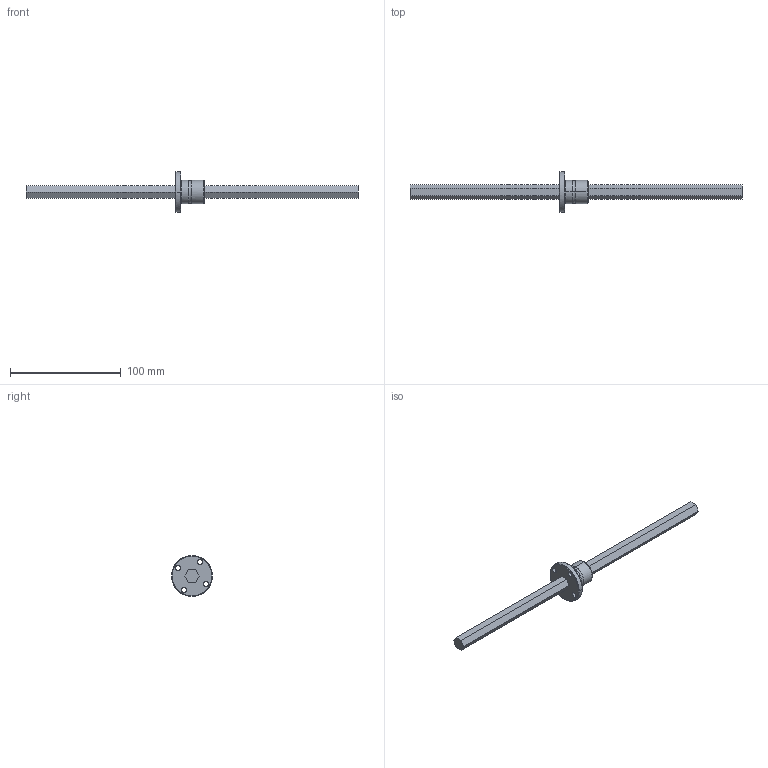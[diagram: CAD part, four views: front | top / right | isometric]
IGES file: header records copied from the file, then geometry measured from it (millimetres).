
Global section: file name: No Iges File Name specified; native system: AutoDesk Inventor R10; preprocessor: AutoDesk Inventor Iges Exporter R10; author: No Author specified; organization: No Organization specified; date: 20101224.162119; units: millimetre
Bounding box: 300 x 37 x 37 mm (x, y, z)
Surface area: 16694.5 mm2 (no closed solid volume)
Topology: 0 solids, 0 shells, 53 faces, 347 edges, 347 vertices
Faces by surface type: bspline 53
